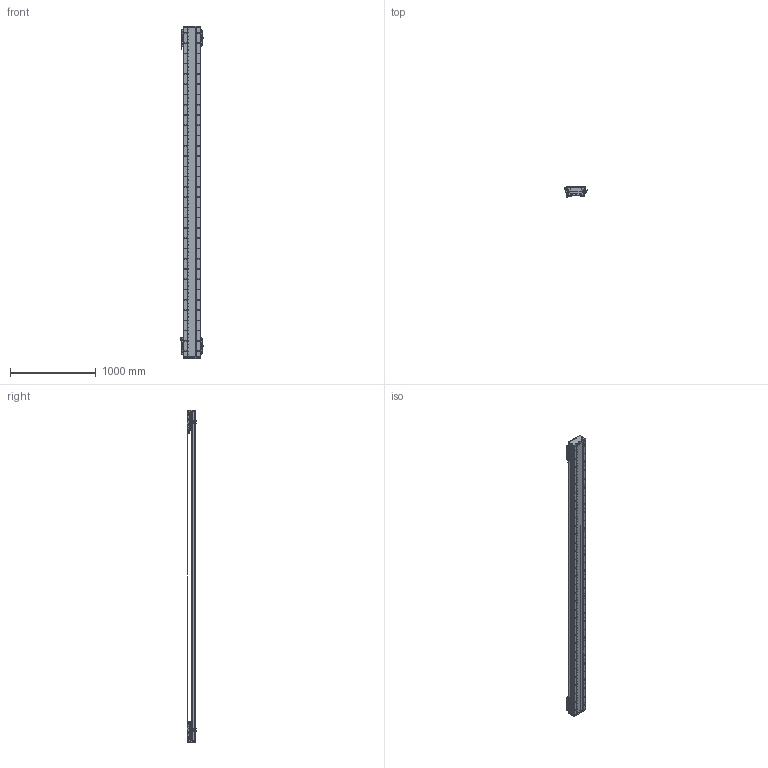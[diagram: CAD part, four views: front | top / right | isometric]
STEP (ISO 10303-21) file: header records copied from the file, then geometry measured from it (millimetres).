
FILE_DESCRIPTION (( 'STEP AP203' ), '1' );
FILE_NAME ('DA-C195-2-C2-T3380-C010-0.2 眻盄萇儂.STEP', '2025-08-14T02:17:58', ( '' ), ( '' ), 'SwSTEP 2.0', 'SolidWorks 2019', '' );
FILE_SCHEMA (( 'CONFIG_CONTROL_DESIGN' ));
Length unit declared in the file: millimetre
Products named in the file (19): DA-C195-GD-DB-H-00 傷啣-1; DA195詩湍菜輸-1; DA195詩湍郪璃-1; DKW-KGZ-ZJ-00 中间光电开关支架-1; PM-T45ㄗ侂狟ㄘ-1; 葩璃 DA95-GT-T-00-1; CU195-C2賑輸-俋楷-1; IU-CU195-L-00 菁釱(L3840); DKW168-HXJ-ZJ-00 笢潔滅袉砎蝶-1; PM-Y65嫖萇羲壽郪璃-1; MS200 棠掑喜S315-T1740-1; DA195詩湍嶺輸-1; LMT黍杅芛-1; DKW-GYP-ZJ-00 笢潔嫖萇覜茼え-1; IU-CU195-L 菁釱絳寢-1; DA95-HXJ-00 遣喳砎蝶-1; DA-C195-2-C2-T3380-C010-0.2 眻盄萇儂; DA195詩湍裔啣-1; DA165-GYP-00 光电感应片(默认)-1
Assembly tree (37 placements, depth 3):
  DA-C195-2-C2-T3380-C010-0.2 眻盄萇儂
    DA195詩湍郪璃-1
      DA195詩湍菜輸-1  x2
      DA195詩湍裔啣-1
      DA195詩湍嶺輸-1  x2
      DA95-HXJ-00 遣喳砎蝶-1  x8
      DA-C195-GD-DB-H-00 傷啣-1  x2
    IU-CU195-L 菁釱絳寢-1
      IU-CU195-L-00 菁釱(L3840)
      葩璃 DA95-GT-T-00-1  x4
    LMT黍杅芛-1  x2
    MS200 棠掑喜S315-T1740-1
    PM-T45ㄗ侂狟ㄘ-1  x4
    DA165-GYP-00 光电感应片(默认)-1  x2
    PM-Y65嫖萇羲壽郪璃-1
    DKW168-HXJ-ZJ-00 笢潔滅袉砎蝶-1
    DKW-GYP-ZJ-00 笢潔嫖萇覜茼え-1
    DKW-KGZ-ZJ-00 中间光电开关支架-1
    CU195-C2賑輸-俋楷-1  x2
Bounding box: 258.2 x 115.45 x 3880 mm (x, y, z)
Volume: 22604210.5 mm3; surface area: 6677366 mm2
Topology: 114 solids, 242 shells, 7525 faces, 20567 edges, 12881 vertices
Faces by surface type: cylinder 3796, plane 2645, cone 916, torus 88, sphere 72, bspline 8
Entity records: 177747 total; most frequent: CARTESIAN_POINT 51011, ORIENTED_EDGE 26966, DIRECTION 24970, EDGE_CURVE 13483, AXIS2_PLACEMENT_3D 9249, VERTEX_POINT 8768, VECTOR 6472, LINE 6472
